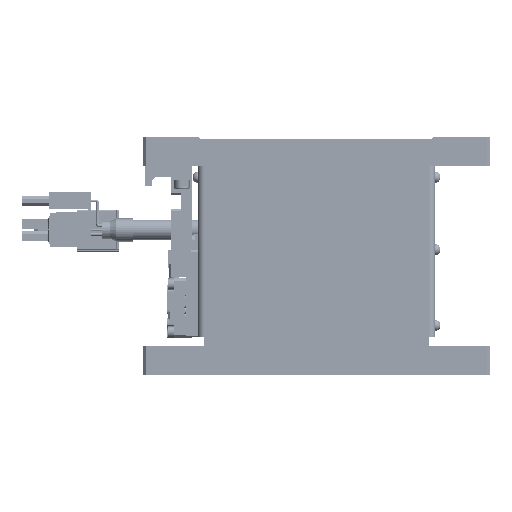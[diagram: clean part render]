
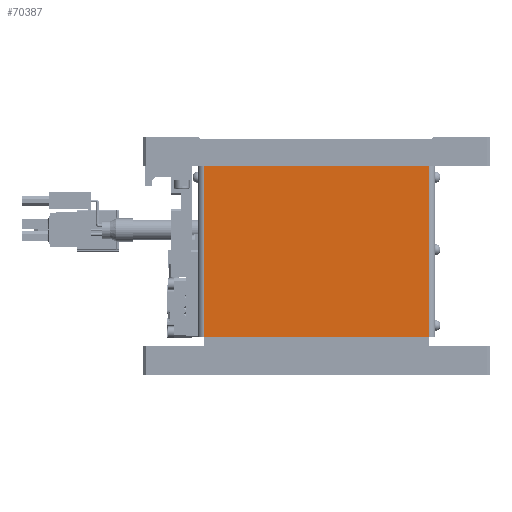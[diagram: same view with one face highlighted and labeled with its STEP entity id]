
A CAD part, left-side view. The second image highlights one B-rep face of the part: STEP entity #70387.
In plain terms, the highlighted planar face has unit normal (-1, 0, 0).
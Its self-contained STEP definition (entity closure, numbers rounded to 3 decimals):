
#6690 = EDGE_CURVE ( 'NONE', #167774, #178688, #236893, .T. ) ;
#13950 = CARTESIAN_POINT ( 'NONE',  ( -77.5, 39., -59.2 ) ) ;
#15389 = ORIENTED_EDGE ( 'NONE', *, *, #185766, .T. ) ;
#17647 = DIRECTION ( 'NONE',  ( 0., 0., -1. ) ) ;
#37348 = CARTESIAN_POINT ( 'NONE',  ( -77.5, -40., -59.2 ) ) ;
#39860 = CARTESIAN_POINT ( 'NONE',  ( -77.5, 39., 0. ) ) ;
#40183 = DIRECTION ( 'NONE',  ( 0., -1., 0. ) ) ;
#42407 = LINE ( 'NONE', #146386, #220359 ) ;
#53558 = CARTESIAN_POINT ( 'NONE',  ( -77.5, 39., 0. ) ) ;
#54251 = DIRECTION ( 'NONE',  ( 0., 0., 1. ) ) ;
#59738 = FACE_OUTER_BOUND ( 'NONE', #145842, .T. ) ;
#70387 = ADVANCED_FACE ( 'NONE', ( #59738 ), #140673, .F. ) ;
#75536 = DIRECTION ( 'NONE',  ( 1., 0., 0. ) ) ;
#77736 = CARTESIAN_POINT ( 'NONE',  ( -77.5, -39., -59.2 ) ) ;
#77939 = ORIENTED_EDGE ( 'NONE', *, *, #132785, .T. ) ;
#84958 = VERTEX_POINT ( 'NONE', #153248 ) ;
#91324 = VECTOR ( 'NONE', #54251, 1000. ) ;
#94239 = VECTOR ( 'NONE', #213477, 1000. ) ;
#99530 = AXIS2_PLACEMENT_3D ( 'NONE', #254079, #75536, #40183 ) ;
#127992 = EDGE_CURVE ( 'NONE', #178096, #167774, #178103, .T. ) ;
#132785 = EDGE_CURVE ( 'NONE', #178688, #84958, #232954, .T. ) ;
#140673 = PLANE ( 'NONE',  #99530 ) ;
#145842 = EDGE_LOOP ( 'NONE', ( #77939, #15389, #255435, #247232 ) ) ;
#146386 = CARTESIAN_POINT ( 'NONE',  ( -77.5, -40., 0. ) ) ;
#153248 = CARTESIAN_POINT ( 'NONE',  ( -77.5, -39., 0. ) ) ;
#167774 = VERTEX_POINT ( 'NONE', #13950 ) ;
#170060 = VECTOR ( 'NONE', #17647, 1000. ) ;
#178096 = VERTEX_POINT ( 'NONE', #53558 ) ;
#178103 = LINE ( 'NONE', #39860, #170060 ) ;
#178688 = VERTEX_POINT ( 'NONE', #219438 ) ;
#185766 = EDGE_CURVE ( 'NONE', #84958, #178096, #42407, .T. ) ;
#213477 = DIRECTION ( 'NONE',  ( 0., -1., 0. ) ) ;
#219438 = CARTESIAN_POINT ( 'NONE',  ( -77.5, -39., -59.2 ) ) ;
#220359 = VECTOR ( 'NONE', #240601, 1000. ) ;
#232954 = LINE ( 'NONE', #77736, #91324 ) ;
#236893 = LINE ( 'NONE', #37348, #94239 ) ;
#240601 = DIRECTION ( 'NONE',  ( 0., 1., 0. ) ) ;
#247232 = ORIENTED_EDGE ( 'NONE', *, *, #6690, .T. ) ;
#254079 = CARTESIAN_POINT ( 'NONE',  ( -77.5, 0., -29.6 ) ) ;
#255435 = ORIENTED_EDGE ( 'NONE', *, *, #127992, .T. ) ;
